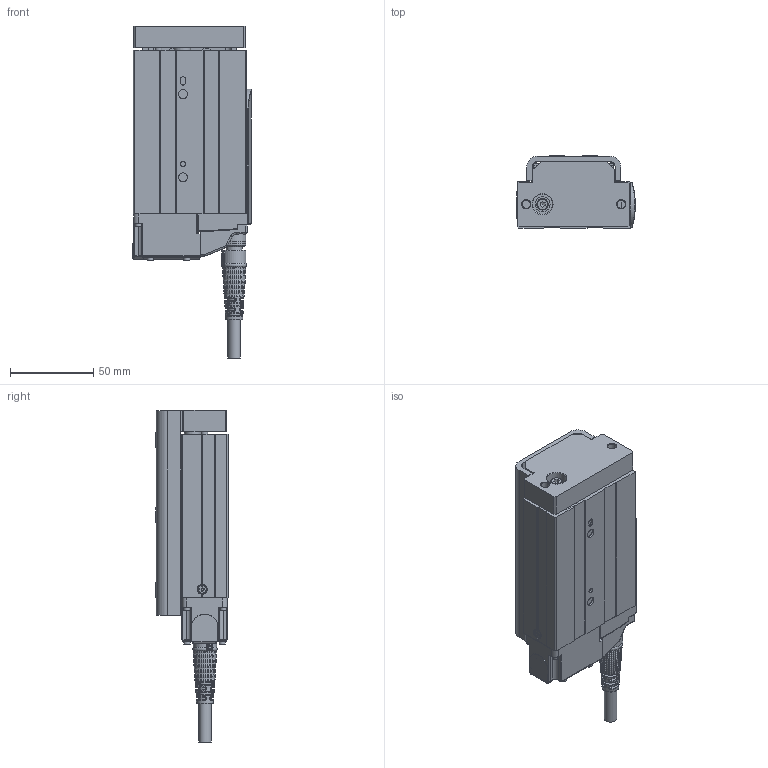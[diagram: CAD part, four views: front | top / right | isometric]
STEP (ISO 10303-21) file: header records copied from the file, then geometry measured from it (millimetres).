
FILE_DESCRIPTION(/* description */ ('STEP AP203'),/* implementation_level */ '2;1');
FILE_NAME(/* name */ 'D:\暫\2025.02.06 CSG 3D\CSG25-B\CSG25-S50-B.stp',/* time_stamp */ '2025-02-08T10:32:00+08:00',/* author */ ('T10033'),/* organization */ (''),/* preprocessor_version */ 'ST-DEVELOPER v18.1',/* originating_system */ 'Autodesk Inventor 2020',/* authorisation */ '');
FILE_SCHEMA (('CONFIG_CONTROL_DESIGN'));
Products named in the file (29): CSG25-50行程-煞車; ©T©wªO-·¥­­¾×ª
O4-M2¤ú; M12 -14PIN  ªOºÝ-²Ä¤@ºØ
³W®æ; CSG25-50¥»Åé3ª©-ªo¤Õ
½Õ¾ã¨¤«×; countersunk flat head cross recess screw_iso_ISO 7046-1 - M2.5 x 4 - 
Z - 4N; ¶ì½¦ºÝ»-L¼Ë¦¡(TOYO)-°
t¦XPCB(·Ù¨®¥Î)-DF3±µÀYª½
±µ©ñ¤Jª©; IS 2269 - M2 x 10; ISO 4762 - M2.5 x 6ISO; PCB; M12-14PIN 線端180度接頭-05中繼線_
MIR; 423T324GV F; 22024-000496; plain washer 10673 type snl_iso_ISO 10673-4.55-S; 22035-000061(G4ªo¯]); countersunk flat head cross recess screw_iso_ISO 7046-1 - M2.5 x 4 - 
Z - 4N_1; plain washer 10673 type snl_iso_ISO 10673-2.75-S; socket head cap screw_iso_ISO 4762 M2.5 x 5 - 5N; ©T©wªO-·¥­­¾×ª
O4-M2¤ú_1; socket head cap screw_iso_ISO 4762 M2.5 x 6 - 6N; socket head cap screw_iso_ISO 4762 M2.5 x 8 - 8N; socket head cap screw_iso_ISO 4762 M2 x 12 - 12N; M12 -14PIN  ªOºÝ-²Ä¤@ºØ
³W®æ_1; CSG25-50¥»Åé3ª©-ªo¤Õ
½Õ¾ã¨¤«×_1; 12003-000221-­×§ï; CSG25-Carriage-newtype; CNS 3932 - M 4 x 0.7 x 12; CNS 4558 - M5 x 0.8 x 12; Solid1-2; 43T34 TFSDR_Shrinkwrap_1
Assembly tree (40 placements, depth 3):
  CSG25-50行程-煞車
    ©T©wªO-·¥­­¾×ª
O4-M2¤ú
    M12 -14PIN  ªOºÝ-²Ä¤@ºØ
³W®æ
    CSG25-50¥»Åé3ª©-ªo¤Õ
½Õ¾ã¨¤«×
    countersunk flat head cross recess screw_iso_ISO 7046-1 - M2.5 x 4 - 
Z - 4N
    ¶ì½¦ºÝ»-L¼Ë¦¡(TOYO)-°
t¦XPCB(·Ù¨®¥Î)-DF3±µÀYª½
±µ©ñ¤Jª©
    IS 2269 - M2 x 10  x2
    ISO 4762 - M2.5 x 6ISO  x2
    PCB
    M12-14PIN 線端180度接頭-05中繼線_
MIR
    423T324GV F
      22024-000496
      plain washer 10673 type snl_iso_ISO 10673-4.55-S
      22035-000061(G4ªo¯])
      socket head cap screw_iso_ISO 4762 M2.5 x 8 - 8N  x8
      countersunk flat head cross recess screw_iso_ISO 7046-1 - M2.5 x 4 - 
Z - 4N_1
      plain washer 10673 type snl_iso_ISO 10673-2.75-S
      socket head cap screw_iso_ISO 4762 M2.5 x 5 - 5N
      ©T©wªO-·¥­­¾×ª
O4-M2¤ú_1
      socket head cap screw_iso_ISO 4762 M2.5 x 6 - 6N  x2
      socket head cap screw_iso_ISO 4762 M2 x 12 - 12N  x2
      M12 -14PIN  ªOºÝ-²Ä¤@ºØ
³W®æ_1
      CSG25-50¥»Åé3ª©-ªo¤Õ
½Õ¾ã¨¤«×_1
      12003-000221-­×§ï
      CSG25-Carriage-newtype
      CNS 3932 - M 4 x 0.7 x 12
      CNS 4558 - M5 x 0.8 x 12  x2
      Solid1-2
    43T34 TFSDR_Shrinkwrap_1
Bounding box: 71.25 x 43.5 x 199.6 mm (x, y, z)
Volume: 384294.5 mm3; surface area: 132011.4 mm2
Topology: 57 solids, 60 shells, 3283 faces, 9043 edges, 6008 vertices
Faces by surface type: plane 1632, cylinder 684, bspline 491, cone 355, torus 108, sphere 13
Full cylindrical faces by diameter (mm): 0.6 x28, 0.65 x14, 0.8 x2, 1 x14, 1.567 x1, 1.6 x8, 2 x8, 2.05 x13, 2.5 x21, 2.75 x1, 2.9 x2, 3 x4, 3.8 x10, 4 x1, 4.134 x8, 4.5 x15, 4.55 x1, 4.7 x2, 4.95 x1, 5 x8, 5.2 x1, 5.3 x2, 5.4 x6, 5.5 x4, 6 x5, 7 x3, 7.5 x1, 8 x1, 8.9 x1, 9 x13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
Entity records: 115535 total; most frequent: CARTESIAN_POINT 34876, ORIENTED_EDGE 16847, DIRECTION 15919, EDGE_CURVE 8424, AXIS2_PLACEMENT_3D 5814, VERTEX_POINT 5630, LINE 4291, VECTOR 4291
